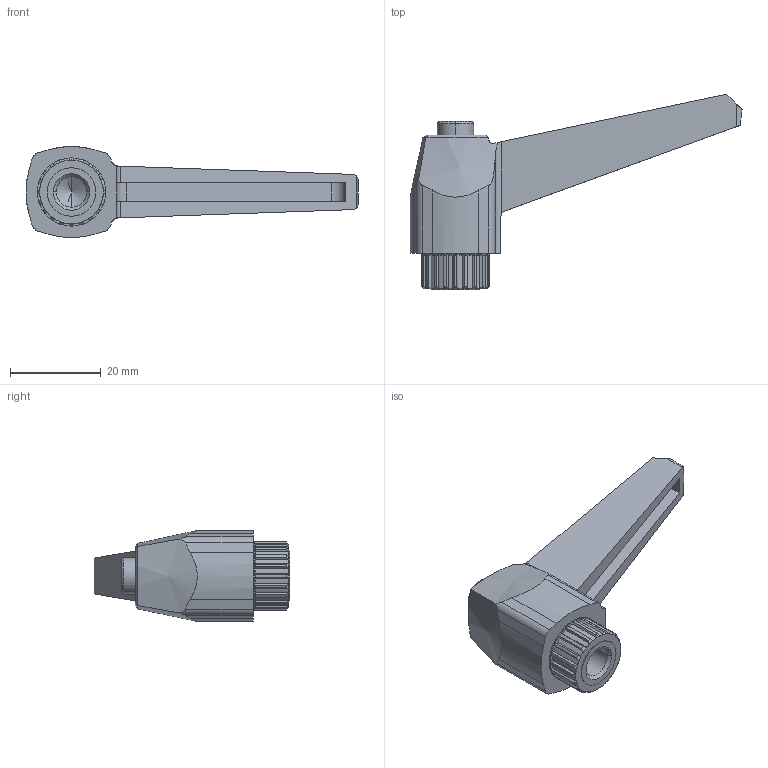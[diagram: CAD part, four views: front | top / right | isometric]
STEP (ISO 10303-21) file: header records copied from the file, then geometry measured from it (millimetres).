
FILE_DESCRIPTION (( 'STEP AP214' ), '1' );
FILE_NAME ('2.9008 Kiinnitysvipu M8 suora sisäkierteellä.STEP', '2025-09-10T08:08:37', ( '' ), ( '' ), 'SwSTEP 2.0', 'SolidWorks 2025', '' );
FILE_SCHEMA (( 'AUTOMOTIVE_DESIGN' ));
Length unit declared in the file: millimetre
Products named in the file (1): 2.9008 Kiinnitysvipu M8 suora sisäkierteellä
Bounding box: 73 x 43 x 20 mm (x, y, z)
Volume: 13342.3 mm3; surface area: 6214.1 mm2
Topology: 1 solids, 1 shells, 155 faces, 430 edges, 282 vertices
Faces by surface type: plane 70, cylinder 69, cone 14, bspline 2
Entity records: 5283 total; most frequent: CARTESIAN_POINT 1260, ORIENTED_EDGE 856, DIRECTION 789, EDGE_CURVE 428, AXIS2_PLACEMENT_3D 293, VERTEX_POINT 282, VECTOR 203, LINE 203
